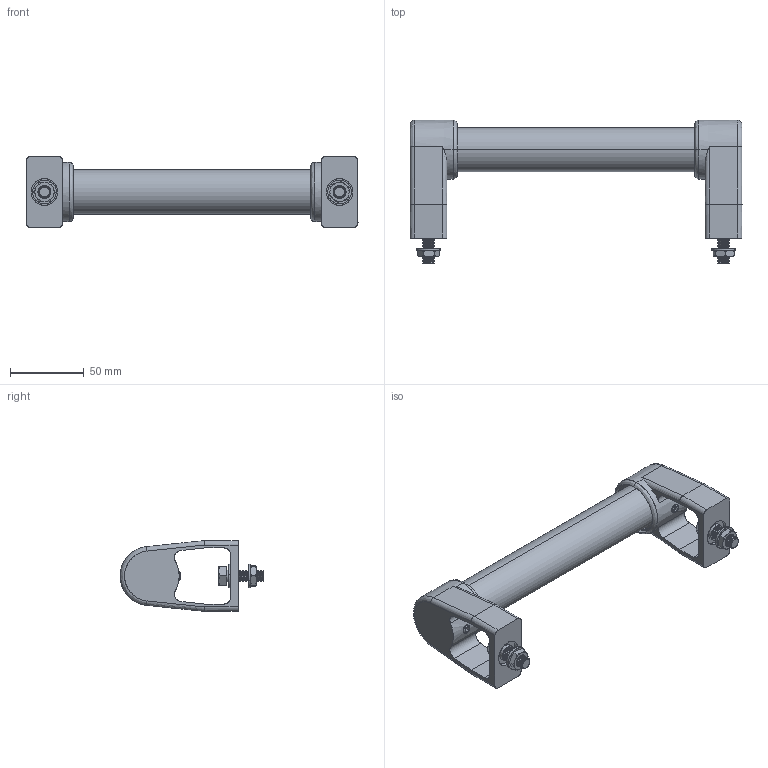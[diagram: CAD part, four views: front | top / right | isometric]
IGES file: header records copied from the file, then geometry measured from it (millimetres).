
Start section: SolidWorks IGES file using analytic representation for surfaces
Global section: file name: C:\Users\IanO\Desktop\Temp File\CADMASTER UPLOADING\78800_v2\78800_v2_20171221_IGES\78800.W0200.igs; native system: SolidWorks 2017; preprocessor: SolidWorks 2017; author: IanO; date: 180428.100638; units: millimetre
Bounding box: 225 x 97.4 x 48 mm (x, y, z)
Surface area: 78367 mm2 (no closed solid volume)
Topology: 0 solids, 0 shells, 486 faces, 5524 edges, 5520 vertices
Faces by surface type: revolution 372, bspline 114
